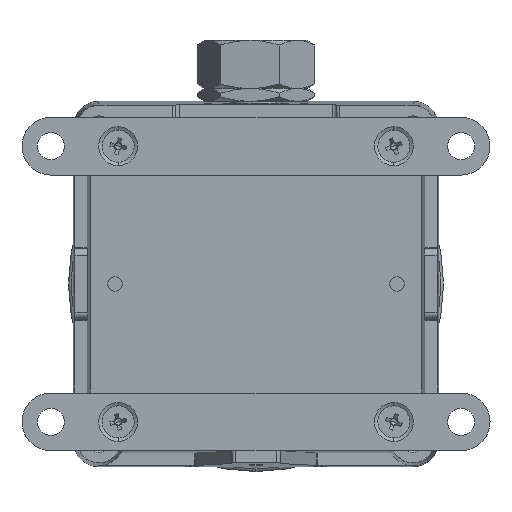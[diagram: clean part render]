
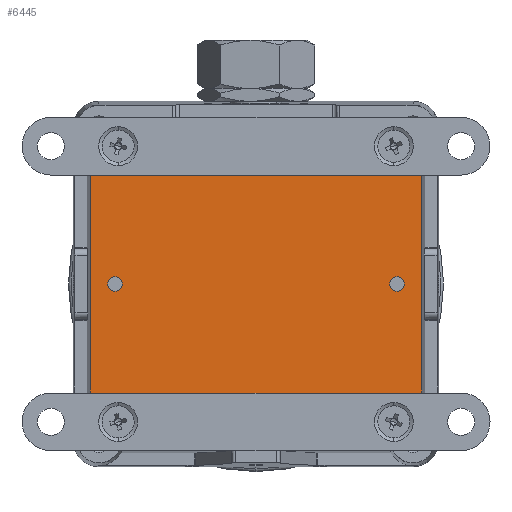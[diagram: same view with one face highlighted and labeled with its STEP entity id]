
A CAD part, front view. The second image highlights one B-rep face of the part: STEP entity #6445.
In plain terms, the highlighted planar face has unit normal (0, -1, 0).
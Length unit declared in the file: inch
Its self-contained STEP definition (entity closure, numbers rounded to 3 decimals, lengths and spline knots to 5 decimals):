
#170 = CARTESIAN_POINT ( 'NONE',  ( 2.03323, -3.80897, 8.95253 ) ) ;
#810 = EDGE_CURVE ( 'NONE', #10805, #7365, #2718, .T. ) ;
#816 = ORIENTED_EDGE ( 'NONE', *, *, #4170, .F. ) ;
#1863 = CARTESIAN_POINT ( 'NONE',  ( -1.6491, -3.80897, 7.61395 ) ) ;
#2234 = CARTESIAN_POINT ( 'NONE',  ( 1.72689, -3.80897, 7.61395 ) ) ;
#2290 = DIRECTION ( 'NONE',  ( 0., -1., 0. ) ) ;
#2353 = FACE_BOUND ( 'NONE', #19245, .T. ) ;
#2718 = CIRCLE ( 'NONE', #9302, 0.08858 ) ;
#3097 = FACE_BOUND ( 'NONE', #9991, .T. ) ;
#3939 = CARTESIAN_POINT ( 'NONE',  ( -2.04403, -3.80897, 8.95253 ) ) ;
#4139 = EDGE_CURVE ( 'NONE', #28396, #16101, #21277, .T. ) ;
#4170 = EDGE_CURVE ( 'NONE', #16101, #27568, #4814, .T. ) ;
#4509 = CARTESIAN_POINT ( 'NONE',  ( -2.04403, -3.80897, 7.61395 ) ) ;
#4634 = VECTOR ( 'NONE', #5137, 39.37008 ) ;
#4812 = CARTESIAN_POINT ( 'NONE',  ( 1.72689, -3.80897, 7.61395 ) ) ;
#4814 = LINE ( 'NONE', #4509, #4634 ) ;
#5066 = AXIS2_PLACEMENT_3D ( 'NONE', #12971, #5855, #20247 ) ;
#5137 = DIRECTION ( 'NONE',  ( 0., 0., 1. ) ) ;
#5855 = DIRECTION ( 'NONE',  ( 0., -1., 0. ) ) ;
#5869 = AXIS2_PLACEMENT_3D ( 'NONE', #12146, #9622, #19270 ) ;
#6445 = ADVANCED_FACE ( 'NONE', ( #14382, #2353, #3097 ), #21637, .T. ) ;
#7365 = VERTEX_POINT ( 'NONE', #12825 ) ;
#7860 = DIRECTION ( 'NONE',  ( 0., 0., 1. ) ) ;
#8643 = CARTESIAN_POINT ( 'NONE',  ( -2.52508, -3.80897, 6.27536 ) ) ;
#9302 = AXIS2_PLACEMENT_3D ( 'NONE', #2234, #25958, #30840 ) ;
#9622 = DIRECTION ( 'NONE',  ( 0., -1., 0. ) ) ;
#9686 = EDGE_CURVE ( 'NONE', #27177, #25996, #30296, .T. ) ;
#9991 = EDGE_LOOP ( 'NONE', ( #18139, #22404 ) ) ;
#10290 = ORIENTED_EDGE ( 'NONE', *, *, #11932, .F. ) ;
#10805 = VERTEX_POINT ( 'NONE', #16827 ) ;
#10893 = LINE ( 'NONE', #15185, #27725 ) ;
#11932 = EDGE_CURVE ( 'NONE', #7365, #10805, #24945, .T. ) ;
#12146 = CARTESIAN_POINT ( 'NONE',  ( -1.73768, -3.80897, 7.61395 ) ) ;
#12432 = CIRCLE ( 'NONE', #5869, 0.08858 ) ;
#12587 = DIRECTION ( 'NONE',  ( 0., -1., 0. ) ) ;
#12728 = ORIENTED_EDGE ( 'NONE', *, *, #810, .F. ) ;
#12825 = CARTESIAN_POINT ( 'NONE',  ( 1.81547, -3.80897, 7.61395 ) ) ;
#12971 = CARTESIAN_POINT ( 'NONE',  ( -1.73768, -3.80897, 7.61395 ) ) ;
#13198 = EDGE_CURVE ( 'NONE', #27568, #28863, #29279, .T. ) ;
#14073 = CARTESIAN_POINT ( 'NONE',  ( -2.04403, -3.80897, 6.27536 ) ) ;
#14382 = FACE_OUTER_BOUND ( 'NONE', #19892, .T. ) ;
#14590 = ORIENTED_EDGE ( 'NONE', *, *, #17435, .F. ) ;
#14877 = AXIS2_PLACEMENT_3D ( 'NONE', #4812, #2290, #21735 ) ;
#15185 = CARTESIAN_POINT ( 'NONE',  ( 2.03323, -3.80897, 7.61395 ) ) ;
#16101 = VERTEX_POINT ( 'NONE', #14073 ) ;
#16827 = CARTESIAN_POINT ( 'NONE',  ( 1.6383, -3.80897, 7.61395 ) ) ;
#17284 = DIRECTION ( 'NONE',  ( 1., 0., 0. ) ) ;
#17435 = EDGE_CURVE ( 'NONE', #28863, #28396, #10893, .T. ) ;
#18139 = ORIENTED_EDGE ( 'NONE', *, *, #27811, .F. ) ;
#18616 = ORIENTED_EDGE ( 'NONE', *, *, #13198, .F. ) ;
#19245 = EDGE_LOOP ( 'NONE', ( #12728, #10290 ) ) ;
#19270 = DIRECTION ( 'NONE',  ( -1., 0., 0. ) ) ;
#19639 = CARTESIAN_POINT ( 'NONE',  ( 2.51429, -3.80897, 8.95253 ) ) ;
#19721 = AXIS2_PLACEMENT_3D ( 'NONE', #31262, #12587, #7860 ) ;
#19892 = EDGE_LOOP ( 'NONE', ( #26807, #14590, #18616, #816 ) ) ;
#20064 = DIRECTION ( 'NONE',  ( 0., 0., -1. ) ) ;
#20247 = DIRECTION ( 'NONE',  ( -1., 0., 0. ) ) ;
#21277 = LINE ( 'NONE', #8643, #29362 ) ;
#21637 = PLANE ( 'NONE',  #19721 ) ;
#21735 = DIRECTION ( 'NONE',  ( -1., 0., 0. ) ) ;
#22404 = ORIENTED_EDGE ( 'NONE', *, *, #9686, .F. ) ;
#22715 = VECTOR ( 'NONE', #17284, 39.37008 ) ;
#23329 = DIRECTION ( 'NONE',  ( -1., 0., 0. ) ) ;
#24945 = CIRCLE ( 'NONE', #14877, 0.08858 ) ;
#25532 = CARTESIAN_POINT ( 'NONE',  ( 2.03323, -3.80897, 6.27536 ) ) ;
#25958 = DIRECTION ( 'NONE',  ( 0., -1., 0. ) ) ;
#25996 = VERTEX_POINT ( 'NONE', #27315 ) ;
#26807 = ORIENTED_EDGE ( 'NONE', *, *, #4139, .F. ) ;
#27177 = VERTEX_POINT ( 'NONE', #1863 ) ;
#27315 = CARTESIAN_POINT ( 'NONE',  ( -1.82626, -3.80897, 7.61395 ) ) ;
#27568 = VERTEX_POINT ( 'NONE', #3939 ) ;
#27725 = VECTOR ( 'NONE', #20064, 39.37008 ) ;
#27811 = EDGE_CURVE ( 'NONE', #25996, #27177, #12432, .T. ) ;
#28396 = VERTEX_POINT ( 'NONE', #25532 ) ;
#28863 = VERTEX_POINT ( 'NONE', #170 ) ;
#29279 = LINE ( 'NONE', #19639, #22715 ) ;
#29362 = VECTOR ( 'NONE', #23329, 39.37008 ) ;
#30296 = CIRCLE ( 'NONE', #5066, 0.08858 ) ;
#30840 = DIRECTION ( 'NONE',  ( -1., 0., 0. ) ) ;
#31262 = CARTESIAN_POINT ( 'NONE',  ( -0.0054, -3.80897, 7.61395 ) ) ;
